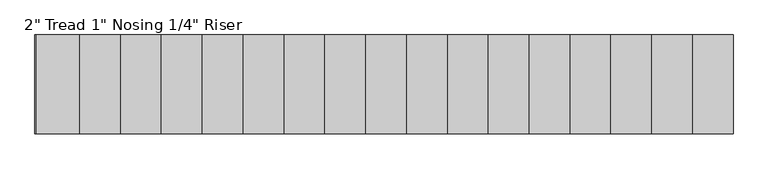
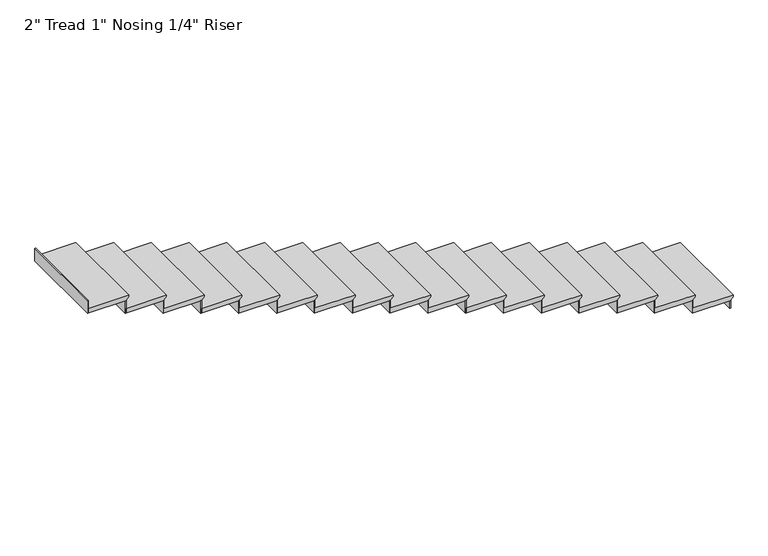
"""IFC4 building model written with IfcOpenShell, lengths in millimetres: stair flight geometry."""

from ifc_helpers import new_model, si_unit, frame, origin, origin_with_axes, place, context, project, spatial, polyline, outline, extrude, source, transform, mapped, element, save


def stair_flight_787d3278(model_context):
    return source(origin(), model_context, "Body", "SweptSolid", [
        extrude(outline(polyline([(132.5217391, -18734.6948358), (132.5217391, -19138.7135858), (81.7217391, -19138.7135858), (81.7217391, -18760.0948358), (88.0717391, -18760.0948358), (113.4717391, -18734.6948358), (132.5217391, -18734.6948358)])), frame((0.0, 3083.34476, 0.0), z_axis=(0.0, 1.0, 0.0), x_axis=(0.0, 0.0, 1.0)), (0.0, 0.0, 1.0), 914.4),
        extrude(outline(polyline([(-18766.4448358, 3997.74476), (-18760.0948358, 3997.74476), (-18760.0948358, 3083.34476), (-18766.4448358, 3083.34476), (-18766.4448358, 3997.74476)])), origin_with_axes(), (0.0, 0.0, 1.0), 81.7217391),
        extrude(outline(polyline([(-19145.0635858, 3997.74476), (-19138.7135858, 3997.74476), (-19138.7135858, 3083.34476), (-19145.0635858, 3083.34476), (-19145.0635858, 3997.74476)])), frame((0.0, 0.0, 81.7217391), z_axis=(0.0, 0.0, 1.0), x_axis=(1.0, 0.0, 0.0)), (0.0, 0.0, 1.0), 132.5217391),
        extrude(outline(polyline([(265.0434783, -19113.3135858), (265.0434783, -19517.3323358), (214.2434783, -19517.3323358), (214.2434783, -19138.7135858), (220.5934783, -19138.7135858), (245.9934783, -19113.3135858), (265.0434783, -19113.3135858)])), frame((0.0, 3083.34476, 0.0), z_axis=(0.0, 1.0, 0.0), x_axis=(0.0, 0.0, 1.0)), (0.0, 0.0, 1.0), 914.4),
        extrude(outline(polyline([(-19523.6823358, 3997.74476), (-19517.3323358, 3997.74476), (-19517.3323358, 3083.34476), (-19523.6823358, 3083.34476), (-19523.6823358, 3997.74476)])), frame((0.0, 0.0, 214.2434783), z_axis=(0.0, 0.0, 1.0), x_axis=(1.0, 0.0, 0.0)), (0.0, 0.0, 1.0), 132.5217391),
        extrude(outline(polyline([(397.5652174, -19491.9323358), (397.5652174, -19895.9510858), (346.7652174, -19895.9510858), (346.7652174, -19517.3323358), (353.1152174, -19517.3323358), (378.5152174, -19491.9323358), (397.5652174, -19491.9323358)])), frame((0.0, 3083.34476, 0.0), z_axis=(0.0, 1.0, 0.0), x_axis=(0.0, 0.0, 1.0)), (0.0, 0.0, 1.0), 914.4),
        extrude(outline(polyline([(-19902.3010858, 3997.74476), (-19895.9510858, 3997.74476), (-19895.9510858, 3083.34476), (-19902.3010858, 3083.34476), (-19902.3010858, 3997.74476)])), frame((0.0, 0.0, 346.7652174), z_axis=(0.0, 0.0, 1.0), x_axis=(1.0, 0.0, 0.0)), (0.0, 0.0, 1.0), 132.5217391),
        extrude(outline(polyline([(530.0869565, -19870.5510858), (530.0869565, -20274.5698358), (479.2869565, -20274.5698358), (479.2869565, -19895.9510858), (485.6369565, -19895.9510858), (511.0369565, -19870.5510858), (530.0869565, -19870.5510858)])), frame((0.0, 3083.34476, 0.0), z_axis=(0.0, 1.0, 0.0), x_axis=(0.0, 0.0, 1.0)), (0.0, 0.0, 1.0), 914.4),
        extrude(outline(polyline([(-20280.9198358, 3997.74476), (-20274.5698358, 3997.74476), (-20274.5698358, 3083.34476), (-20280.9198358, 3083.34476), (-20280.9198358, 3997.74476)])), frame((0.0, 0.0, 479.2869565), z_axis=(0.0, 0.0, 1.0), x_axis=(1.0, 0.0, 0.0)), (0.0, 0.0, 1.0), 132.5217391),
        extrude(outline(polyline([(662.6086957, -20249.1698358), (662.6086957, -20653.1885858), (611.8086957, -20653.1885858), (611.8086957, -20274.5698358), (618.1586957, -20274.5698358), (643.5586957, -20249.1698358), (662.6086957, -20249.1698358)])), frame((0.0, 3083.34476, 0.0), z_axis=(0.0, 1.0, 0.0), x_axis=(0.0, 0.0, 1.0)), (0.0, 0.0, 1.0), 914.4),
        extrude(outline(polyline([(-20659.5385858, 3997.74476), (-20653.1885858, 3997.74476), (-20653.1885858, 3083.34476), (-20659.5385858, 3083.34476), (-20659.5385858, 3997.74476)])), frame((0.0, 0.0, 611.8086957), z_axis=(0.0, 0.0, 1.0), x_axis=(1.0, 0.0, 0.0)), (0.0, 0.0, 1.0), 132.5217391),
        extrude(outline(polyline([(795.1304348, -20627.7885858), (795.1304348, -21031.8073358), (744.3304348, -21031.8073358), (744.3304348, -20653.1885858), (750.6804348, -20653.1885858), (776.0804348, -20627.7885858), (795.1304348, -20627.7885858)])), frame((0.0, 3083.34476, 0.0), z_axis=(0.0, 1.0, 0.0), x_axis=(0.0, 0.0, 1.0)), (0.0, 0.0, 1.0), 914.4),
        extrude(outline(polyline([(-21038.1573358, 3997.74476), (-21031.8073358, 3997.74476), (-21031.8073358, 3083.34476), (-21038.1573358, 3083.34476), (-21038.1573358, 3997.74476)])), frame((0.0, 0.0, 744.3304348), z_axis=(0.0, 0.0, 1.0), x_axis=(1.0, 0.0, 0.0)), (0.0, 0.0, 1.0), 132.5217391),
        extrude(outline(polyline([(927.6521739, -21006.4073358), (927.6521739, -21410.4260858), (876.8521739, -21410.4260858), (876.8521739, -21031.8073358), (883.2021739, -21031.8073358), (908.6021739, -21006.4073358), (927.6521739, -21006.4073358)])), frame((0.0, 3083.34476, 0.0), z_axis=(0.0, 1.0, 0.0), x_axis=(0.0, 0.0, 1.0)), (0.0, 0.0, 1.0), 914.4),
        extrude(outline(polyline([(-21416.7760858, 3997.74476), (-21410.4260858, 3997.74476), (-21410.4260858, 3083.34476), (-21416.7760858, 3083.34476), (-21416.7760858, 3997.74476)])), frame((0.0, 0.0, 876.8521739), z_axis=(0.0, 0.0, 1.0), x_axis=(1.0, 0.0, 0.0)), (0.0, 0.0, 1.0), 132.5217391),
        extrude(outline(polyline([(1060.173913, -21385.0260858), (1060.173913, -21789.0448358), (1009.373913, -21789.0448358), (1009.373913, -21410.4260858), (1015.723913, -21410.4260858), (1041.123913, -21385.0260858), (1060.173913, -21385.0260858)])), frame((0.0, 3083.34476, 0.0), z_axis=(0.0, 1.0, 0.0), x_axis=(0.0, 0.0, 1.0)), (0.0, 0.0, 1.0), 914.4),
        extrude(outline(polyline([(-21795.3948358, 3997.74476), (-21789.0448358, 3997.74476), (-21789.0448358, 3083.34476), (-21795.3948358, 3083.34476), (-21795.3948358, 3997.74476)])), frame((0.0, 0.0, 1009.373913), z_axis=(0.0, 0.0, 1.0), x_axis=(1.0, 0.0, 0.0)), (0.0, 0.0, 1.0), 132.5217391),
        extrude(outline(polyline([(1192.6956522, -21763.6448358), (1192.6956522, -22167.6635858), (1141.8956522, -22167.6635858), (1141.8956522, -21789.0448358), (1148.2456522, -21789.0448358), (1173.6456522, -21763.6448358), (1192.6956522, -21763.6448358)])), frame((0.0, 3083.34476, 0.0), z_axis=(0.0, 1.0, 0.0), x_axis=(0.0, 0.0, 1.0)), (0.0, 0.0, 1.0), 914.4),
        extrude(outline(polyline([(-22174.0135858, 3997.74476), (-22167.6635858, 3997.74476), (-22167.6635858, 3083.34476), (-22174.0135858, 3083.34476), (-22174.0135858, 3997.74476)])), frame((0.0, 0.0, 1141.8956522), z_axis=(0.0, 0.0, 1.0), x_axis=(1.0, 0.0, 0.0)), (0.0, 0.0, 1.0), 132.5217391),
        extrude(outline(polyline([(1325.2173913, -22142.2635858), (1325.2173913, -22546.2823358), (1274.4173913, -22546.2823358), (1274.4173913, -22167.6635858), (1280.7673913, -22167.6635858), (1306.1673913, -22142.2635858), (1325.2173913, -22142.2635858)])), frame((0.0, 3083.34476, 0.0), z_axis=(0.0, 1.0, 0.0), x_axis=(0.0, 0.0, 1.0)), (0.0, 0.0, 1.0), 914.4),
        extrude(outline(polyline([(-22552.6323358, 3997.74476), (-22546.2823358, 3997.74476), (-22546.2823358, 3083.34476), (-22552.6323358, 3083.34476), (-22552.6323358, 3997.74476)])), frame((0.0, 0.0, 1274.4173913), z_axis=(0.0, 0.0, 1.0), x_axis=(1.0, 0.0, 0.0)), (0.0, 0.0, 1.0), 132.5217391),
        extrude(outline(polyline([(1457.7391304, -22520.8823358), (1457.7391304, -22924.9010858), (1406.9391304, -22924.9010858), (1406.9391304, -22546.2823358), (1413.2891304, -22546.2823358), (1438.6891304, -22520.8823358), (1457.7391304, -22520.8823358)])), frame((0.0, 3083.34476, 0.0), z_axis=(0.0, 1.0, 0.0), x_axis=(0.0, 0.0, 1.0)), (0.0, 0.0, 1.0), 914.4),
        extrude(outline(polyline([(-22931.2510858, 3997.74476), (-22924.9010858, 3997.74476), (-22924.9010858, 3083.34476), (-22931.2510858, 3083.34476), (-22931.2510858, 3997.74476)])), frame((0.0, 0.0, 1406.9391304), z_axis=(0.0, 0.0, 1.0), x_axis=(1.0, 0.0, 0.0)), (0.0, 0.0, 1.0), 132.5217391),
        extrude(outline(polyline([(1590.2608696, -22899.5010858), (1590.2608696, -23303.5198358), (1539.4608696, -23303.5198358), (1539.4608696, -22924.9010858), (1545.8108696, -22924.9010858), (1571.2108696, -22899.5010858), (1590.2608696, -22899.5010858)])), frame((0.0, 3083.34476, 0.0), z_axis=(0.0, 1.0, 0.0), x_axis=(0.0, 0.0, 1.0)), (0.0, 0.0, 1.0), 914.4),
        extrude(outline(polyline([(-23309.8698358, 3997.74476), (-23303.5198358, 3997.74476), (-23303.5198358, 3083.34476), (-23309.8698358, 3083.34476), (-23309.8698358, 3997.74476)])), frame((0.0, 0.0, 1539.4608696), z_axis=(0.0, 0.0, 1.0), x_axis=(1.0, 0.0, 0.0)), (0.0, 0.0, 1.0), 132.5217391),
        extrude(outline(polyline([(1722.7826087, -23278.1198358), (1722.7826087, -23682.1385858), (1671.9826087, -23682.1385858), (1671.9826087, -23303.5198358), (1678.3326087, -23303.5198358), (1703.7326087, -23278.1198358), (1722.7826087, -23278.1198358)])), frame((0.0, 3083.34476, 0.0), z_axis=(0.0, 1.0, 0.0), x_axis=(0.0, 0.0, 1.0)), (0.0, 0.0, 1.0), 914.4),
        extrude(outline(polyline([(-23688.4885858, 3997.74476), (-23682.1385858, 3997.74476), (-23682.1385858, 3083.34476), (-23688.4885858, 3083.34476), (-23688.4885858, 3997.74476)])), frame((0.0, 0.0, 1671.9826087), z_axis=(0.0, 0.0, 1.0), x_axis=(1.0, 0.0, 0.0)), (0.0, 0.0, 1.0), 132.5217391),
        extrude(outline(polyline([(1855.3043478, -23656.7385858), (1855.3043478, -24060.7573358), (1804.5043478, -24060.7573358), (1804.5043478, -23682.1385858), (1810.8543478, -23682.1385858), (1836.2543478, -23656.7385858), (1855.3043478, -23656.7385858)])), frame((0.0, 3083.34476, 0.0), z_axis=(0.0, 1.0, 0.0), x_axis=(0.0, 0.0, 1.0)), (0.0, 0.0, 1.0), 914.4),
        extrude(outline(polyline([(-24067.1073358, 3997.74476), (-24060.7573358, 3997.74476), (-24060.7573358, 3083.34476), (-24067.1073358, 3083.34476), (-24067.1073358, 3997.74476)])), frame((0.0, 0.0, 1804.5043478), z_axis=(0.0, 0.0, 1.0), x_axis=(1.0, 0.0, 0.0)), (0.0, 0.0, 1.0), 132.5217391),
        extrude(outline(polyline([(1987.826087, -24035.3573358), (1987.826087, -24439.3760858), (1937.026087, -24439.3760858), (1937.026087, -24060.7573358), (1943.376087, -24060.7573358), (1968.776087, -24035.3573358), (1987.826087, -24035.3573358)])), frame((0.0, 3083.34476, 0.0), z_axis=(0.0, 1.0, 0.0), x_axis=(0.0, 0.0, 1.0)), (0.0, 0.0, 1.0), 914.4),
        extrude(outline(polyline([(-24445.7260858, 3997.74476), (-24439.3760858, 3997.74476), (-24439.3760858, 3083.34476), (-24445.7260858, 3083.34476), (-24445.7260858, 3997.74476)])), frame((0.0, 0.0, 1937.026087), z_axis=(0.0, 0.0, 1.0), x_axis=(1.0, 0.0, 0.0)), (0.0, 0.0, 1.0), 132.5217391),
        extrude(outline(polyline([(2120.3478261, -24413.9760858), (2120.3478261, -24817.9948358), (2069.5478261, -24817.9948358), (2069.5478261, -24439.3760858), (2075.8978261, -24439.3760858), (2101.2978261, -24413.9760858), (2120.3478261, -24413.9760858)])), frame((0.0, 3083.34476, 0.0), z_axis=(0.0, 1.0, 0.0), x_axis=(0.0, 0.0, 1.0)), (0.0, 0.0, 1.0), 914.4),
        extrude(outline(polyline([(-24824.3448358, 3997.74476), (-24817.9948358, 3997.74476), (-24817.9948358, 3083.34476), (-24824.3448358, 3083.34476), (-24824.3448358, 3997.74476)])), frame((0.0, 0.0, 2069.5478261), z_axis=(0.0, 0.0, 1.0), x_axis=(1.0, 0.0, 0.0)), (0.0, 0.0, 1.0), 132.5217391),
        extrude(outline(polyline([(-25202.9635858, 3997.74476), (-25196.6135858, 3997.74476), (-25196.6135858, 3083.34476), (-25202.9635858, 3083.34476), (-25202.9635858, 3997.74476)])), frame((0.0, 0.0, 2202.0695652), z_axis=(0.0, 0.0, 1.0), x_axis=(1.0, 0.0, 0.0)), (0.0, 0.0, 1.0), 132.5217391),
        extrude(outline(polyline([(2252.8695652, -24792.5948358), (2252.8695652, -25196.6135858), (2202.0695652, -25196.6135858), (2202.0695652, -24817.9948358), (2208.4195652, -24817.9948358), (2233.8195652, -24792.5948358), (2252.8695652, -24792.5948358)])), frame((0.0, 3083.34476, 0.0), z_axis=(0.0, 1.0, 0.0), x_axis=(0.0, 0.0, 1.0)), (0.0, 0.0, 1.0), 914.4),
    ])


if __name__ == "__main__":
    model = new_model("IFC4")
    model_context = context("Model", 3, world=origin())
    ifc_project = project(units=[si_unit("LENGTHUNIT", "METRE", prefix="MILLI")], contexts=[model_context])
    site = spatial("IfcSite", under=ifc_project)
    building = spatial("IfcBuilding", under=site)
    placement = place(None, origin())
    stair_flight_shape = stair_flight_787d3278(model_context)
    element("IfcStairFlight", 1, ObjectType="2\" Tread 1\" Nosing 1/4\" Riser", at=placement, inside=building, context=model_context, shape_type="MappedRepresentation", body=[
        mapped(stair_flight_shape, transform((0.0, 0.0, 0.0), x_axis=(1.0, 0.0, 0.0), y_axis=(0.0, 1.0, 0.0), z_axis=(0.0, 0.0, 1.0))),
    ])
    save(model, "model.ifc")
